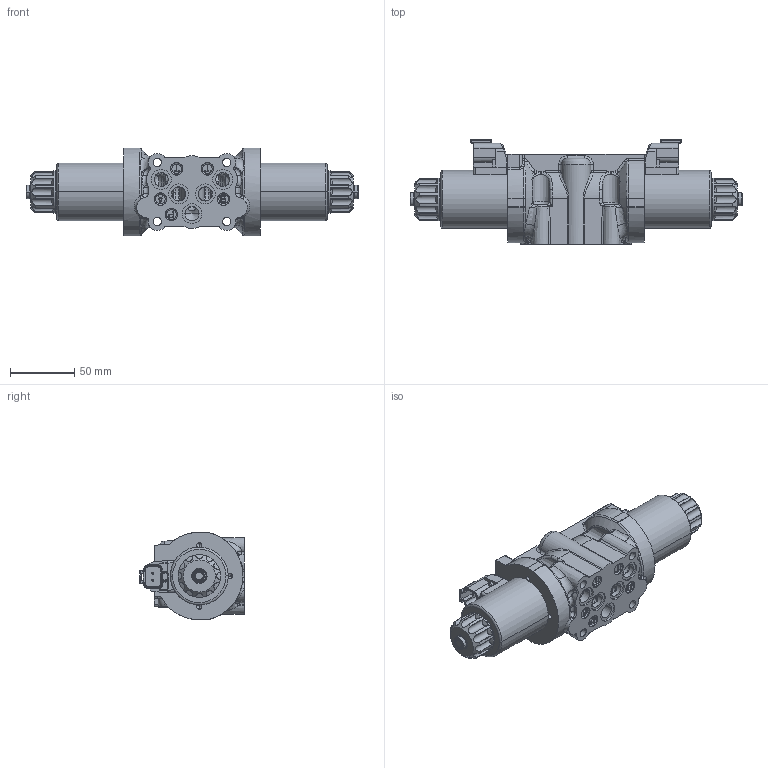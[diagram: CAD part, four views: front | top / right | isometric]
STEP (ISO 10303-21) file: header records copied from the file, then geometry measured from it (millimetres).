
FILE_DESCRIPTION((''),'2;1');
FILE_NAME('1000396422_ASM','2023-02-27T',('l.soukupova'),(''),'PRO/ENGINEER BY PARAMETRIC TECHNOLOGY CORPORATION, 2015440','PRO/ENGINEER BY PARAMETRIC TECHNOLOGY CORPORATION, 2015440','');
FILE_SCHEMA(('AUTOMOTIVE_DESIGN { 1 0 10303 214 1 1 1 1 }'));
Products named in the file (9): 441601_AF0; ISO_8752_2X10; 43447100_ASM; C22B_02400E12_196959_AF2; PLASTIC_NUT_936_4700_; 43509500; 43509600; C22B_02400E12_196959_AF3; 1000396422_ASM
Assembly tree (11 placements, depth 3):
  1000396422_ASM
    43447100_ASM
      441601_AF0
      ISO_8752_2X10
    C22B_02400E12_196959_AF2
    PLASTIC_NUT_936_4700_  x2
    43509500  x2
    43509600  x2
    C22B_02400E12_196959_AF3
Bounding box: 258 x 81.38 x 68.21 mm (x, y, z)
Volume: 439040 mm3; surface area: 109739.4 mm2
Topology: 10 solids, 17 shells, 1542 faces, 3867 edges, 2528 vertices
Faces by surface type: cylinder 552, plane 403, bspline 218, cone 181, torus 153, sphere 35
Entity records: 79248 total; most frequent: CARTESIAN_POINT 32891, ORIENTED_EDGE 6612, DIRECTION 6369, PRESENTATION_STYLE_ASSIGNMENT 3814, STYLED_ITEM 3476, CURVE_STYLE 3464, EDGE_CURVE 3316, AXIS2_PLACEMENT_3D 2460
